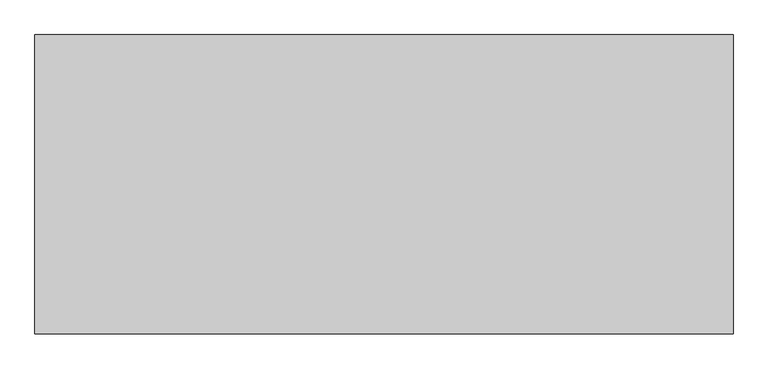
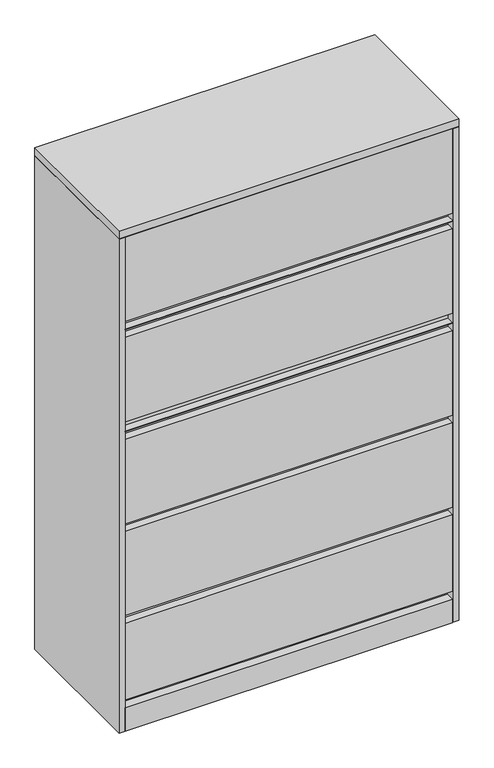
"""IFC4 building model written with IfcOpenShell, lengths in millimetres: furniture geometry, Steelcase - 900 Series - Storage - Lateral File With Posting Shelf - Flush Steel : Five 12H Lift Up Door - 42W."""

from ifc_helpers import new_model, si_unit, frame, origin, origin_with_axes, place, context, project, spatial, polyline, outline, extrude, faceted_brep, source, transform, mapped, element, save


def furniture_5bb631c4(model_context):
    return source(origin(), model_context, "Body", "SolidModel", [
        extrude(outline(polyline([(1045.9722015, -25.2721219), (1045.9722015, -431.800255), (19.3039998, -431.800255), (19.3039998, -25.2721219), (1045.9722015, -25.2721219)])), frame((0.0, 0.0, 357.124), z_axis=(0.0, 0.0, 1.0), x_axis=(1.0, 0.0, 0.0)), (0.0, 0.0, 1.0), 25.4508),
        extrude(outline(polyline([(1045.9722015, -25.2721219), (1045.9722015, -431.800255), (19.3039998, -431.800255), (19.3039998, -25.2721219), (1045.9722015, -25.2721219)])), frame((0.0, 0.0, 661.8732), z_axis=(0.0, 0.0, 1.0), x_axis=(1.0, 0.0, 0.0)), (0.0, 0.0, 1.0), 25.4508),
        extrude(outline(polyline([(1045.9722015, -25.2721219), (1045.9722015, -431.800255), (19.3039998, -431.800255), (19.3039998, -25.2721219), (1045.9722015, -25.2721219)])), frame((0.0, 0.0, 966.6732), z_axis=(0.0, 0.0, 1.0), x_axis=(1.0, 0.0, 0.0)), (0.0, 0.0, 1.0), 25.4508),
        extrude(outline(polyline([(1045.9722015, -25.2721219), (1045.9722015, -431.800255), (19.3039998, -431.800255), (19.3039998, -25.2721219), (1045.9722015, -25.2721219)])), frame((0.0, 0.0, 1304.9377), z_axis=(0.0, 0.0, 1.0), x_axis=(1.0, 0.0, 0.0)), (0.0, 0.0, 1.0), 25.4508),
        extrude(outline(polyline([(1045.9722015, -25.2721219), (1045.9722015, -431.800255), (19.3039998, -431.800255), (19.3039998, -25.2721219), (1045.9722015, -25.2721219)])), frame((0.0, 0.0, 993.7115), z_axis=(0.0, 0.0, 1.0), x_axis=(1.0, 0.0, 0.0)), (0.0, 0.0, 1.0), 31.877),
        extrude(outline(polyline([(1045.9722015, -25.2721219), (1045.9722015, -431.800255), (19.3039998, -431.800255), (19.3039998, -25.2721219), (1045.9722015, -25.2721219)])), frame((0.0, 0.0, 1331.976), z_axis=(0.0, 0.0, 1.0), x_axis=(1.0, 0.0, 0.0)), (0.0, 0.0, 1.0), 25.4508),
        extrude(outline(polyline([(-430.275847, 77.9779983), (-430.275847, 103.3780013), (-25.2721219, 103.3780013), (-25.2721219, 0.0), (-457.2, 0.0), (-457.2, 77.9779983), (-430.275847, 77.9779983)])), frame((19.3039998, 0.0, 0.0), z_axis=(1.0, 0.0, 0.0), x_axis=(0.0, 1.0, 0.0)), (0.0, 0.0, 1.0), 1026.6682018),
        faceted_brep([(1066.8, 0.0, 1663.7), (0.0, 0.0, 1663.7), (0.0, -457.2, 1663.7), (1066.8, -457.2, 1663.7), (1066.8, 0.0, 1638.2999516), (1066.8, -457.2, 1638.2999516), (0.0, -457.2, 1638.2999516), (0.0, 0.0, 1638.2999516), (1047.4960184, -25.2721219, 1638.2999516), (20.8289612, -25.2721219, 1638.2999516), (20.8289612, -415.9241219, 1638.2999516), (1047.4960184, -415.9241219, 1638.2999516), (1047.4960184, -25.2721219, 1636.776), (1047.4960184, -415.9241219, 1636.776), (20.8289612, -415.9241219, 1636.776), (20.8289612, -25.2721219, 1636.776)], [[[0, 1, 2, 3]], [[4, 5, 6, 7], [8, 9, 10, 11]], [[1, 0, 4, 7]], [[2, 1, 7, 6]], [[3, 2, 6, 5]], [[0, 3, 5, 4]], [[12, 13, 14, 15]], [[12, 15, 9, 8]], [[15, 14, 10, 9]], [[14, 13, 11, 10]], [[13, 12, 8, 11]]]),
        extrude(outline(polyline([(1045.9722015, -457.2), (20.8289612, -457.2), (20.8289612, -431.800255), (1045.9722015, -431.800255), (1045.9722015, -457.2)])), frame((0.0, 0.0, 103.3780013), z_axis=(0.0, 0.0, 1.0), x_axis=(1.0, 0.0, 0.0)), (0.0, 0.0, 1.0), 253.7459987),
        extrude(outline(polyline([(1045.9722015, -457.2), (20.8289612, -457.2), (20.8289612, -431.800255), (1045.9722015, -431.800255), (1045.9722015, -457.2)])), frame((0.0, 0.0, 382.5748), z_axis=(0.0, 0.0, 1.0), x_axis=(1.0, 0.0, 0.0)), (0.0, 0.0, 1.0), 279.3492),
        extrude(outline(polyline([(1045.9722015, -457.2), (20.8289612, -457.2), (20.8289612, -431.800255), (1045.9722015, -431.800255), (1045.9722015, -457.2)])), frame((0.0, 0.0, 687.324), z_axis=(0.0, 0.0, 1.0), x_axis=(1.0, 0.0, 0.0)), (0.0, 0.0, 1.0), 279.4),
        extrude(outline(polyline([(1045.9722015, -457.2), (20.8289612, -457.2), (20.8289612, -431.800255), (1045.9722015, -431.800255), (1045.9722015, -457.2)])), frame((0.0, 0.0, 1025.5885), z_axis=(0.0, 0.0, 1.0), x_axis=(1.0, 0.0, 0.0)), (0.0, 0.0, 1.0), 279.4),
        extrude(outline(polyline([(1045.9722015, -457.2), (20.8289612, -457.2), (20.8289612, -431.800255), (1045.9722015, -431.800255), (1045.9722015, -457.2)])), frame((0.0, 0.0, 1357.376), z_axis=(0.0, 0.0, 1.0), x_axis=(1.0, 0.0, 0.0)), (0.0, 0.0, 1.0), 279.2286248),
        extrude(outline(polyline([(1045.9722015, -457.2), (19.3039998, -457.2), (19.3039998, -431.800255), (1045.9722015, -431.800255), (1045.9722015, -457.2)])), frame((0.0, 0.0, 992.124), z_axis=(0.0, 0.0, 1.0), x_axis=(1.0, 0.0, 0.0)), (0.0, 0.0, 1.0), 1.5875),
        extrude(outline(polyline([(1047.4960184, -457.2), (19.3039998, -457.2), (19.3039998, -431.800255), (1047.4960184, -431.800255), (1047.4960184, -457.2)])), frame((0.0, 0.0, 1330.3885), z_axis=(0.0, 0.0, 1.0), x_axis=(1.0, 0.0, 0.0)), (0.0, 0.0, 1.0), 1.5875),
        extrude(outline(polyline([(1047.4960184, -25.2721219), (19.3039998, -25.2721219), (19.3039998, -457.2), (0.0, -457.2), (0.0, 0.0), (1066.8, 0.0), (1066.8, -457.2), (1047.4960184, -457.2), (1047.4960184, -25.2721219)])), origin_with_axes(), (0.0, 0.0, 1.0), 1636.776),
    ])


if __name__ == "__main__":
    model = new_model("IFC4")
    model_context = context("Model", 3, world=origin())
    ifc_project = project(units=[si_unit("LENGTHUNIT", "METRE", prefix="MILLI")], contexts=[model_context])
    site = spatial("IfcSite", under=ifc_project)
    building = spatial("IfcBuilding", under=site)
    placement = place(None, origin())
    furniture_shape = furniture_5bb631c4(model_context)
    element("IfcFurniture", 1, ObjectType="Steelcase - 900 Series - Storage - Lateral File With Posting Shelf - Flush Steel : Five 12H Lift Up Door - 42W", at=placement, inside=building, context=model_context, shape_type="MappedRepresentation", body=[
        mapped(furniture_shape, transform((0.0, 0.0, 0.0), x_axis=(1.0, 0.0, 0.0), y_axis=(0.0, 1.0, 0.0), z_axis=(0.0, 0.0, 1.0))),
    ])
    save(model, "model.ifc")
